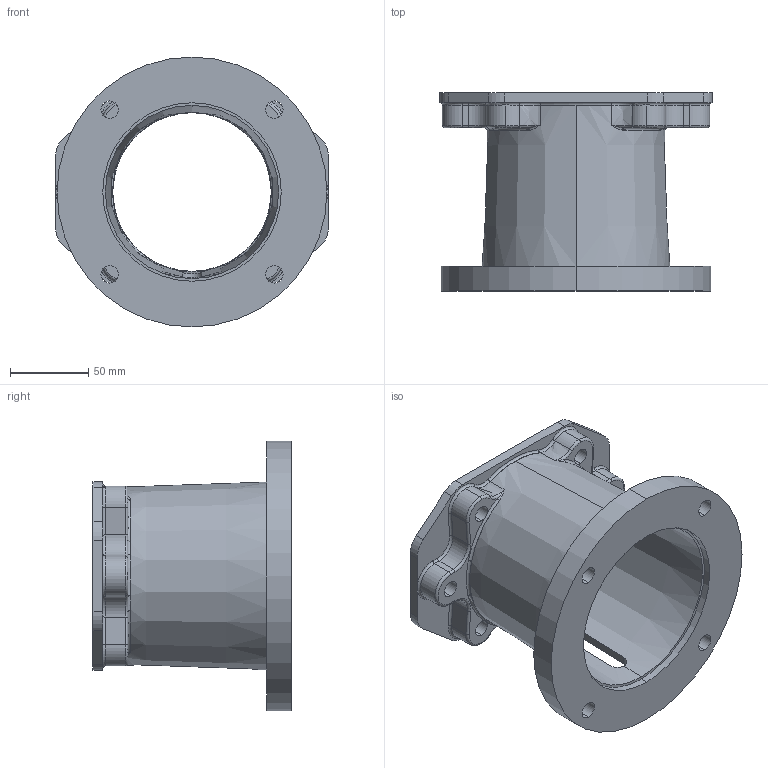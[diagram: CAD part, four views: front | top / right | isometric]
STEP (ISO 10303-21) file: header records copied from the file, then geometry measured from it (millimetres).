
FILE_DESCRIPTION (( 'STEP AP203' ), '1' );
FILE_NAME ('M056502B.STEP', '2009-07-14T19:05:41', ( 'Chris McCoy' ), ( 'Magnaloy Coupling Co' ), 'SwSTEP 2.0', 'SolidWorks 2009', '' );
FILE_SCHEMA (( 'CONFIG_CONTROL_DESIGN' ));
Length unit declared in the file: inch
Products named in the file (1): M056502B
Bounding box: 174.75 x 127 x 172.97 mm (x, y, z)
Volume: 509652.9 mm3; surface area: 144117.3 mm2
Topology: 1 solids, 1 shells, 212 faces, 569 edges, 340 vertices
Faces by surface type: cylinder 64, bspline 64, torus 55, plane 25, cone 4
Entity records: 9375 total; most frequent: CARTESIAN_POINT 4394, ORIENTED_EDGE 1106, DIRECTION 974, EDGE_CURVE 553, AXIS2_PLACEMENT_3D 428, VERTEX_POINT 340, CIRCLE 279, EDGE_LOOP 233
